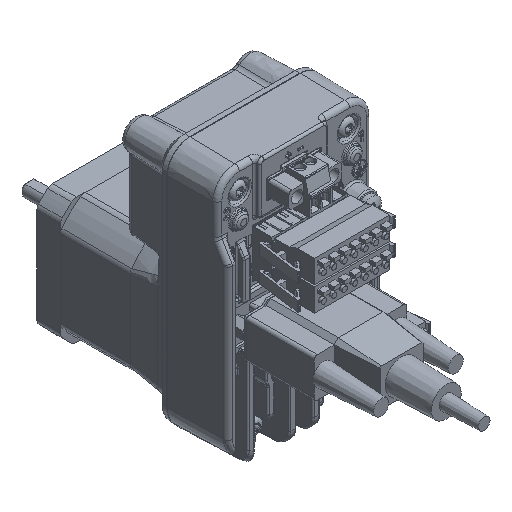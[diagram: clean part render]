
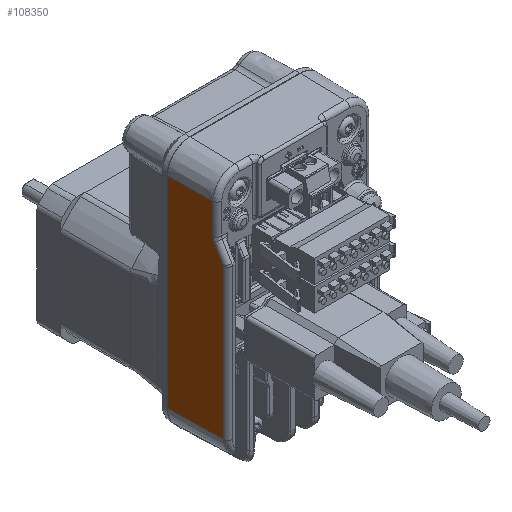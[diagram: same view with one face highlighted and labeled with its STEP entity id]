
A CAD part, isometric view. The second image highlights one B-rep face of the part: STEP entity #108350.
In plain terms, the highlighted planar face has unit normal (-1, -0.018, 0).
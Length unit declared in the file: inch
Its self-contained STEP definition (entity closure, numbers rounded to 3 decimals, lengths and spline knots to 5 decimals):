
#35306=CARTESIAN_POINT('',(-1.02898,0.64938,-0.5756));
#35307=VERTEX_POINT('',#35306);
#35317=CARTESIAN_POINT('',(-1.02901,0.64938,2.08422));
#35318=VERTEX_POINT('',#35317);
#35319=CARTESIAN_POINT('',(-1.02901,0.64938,0.07325));
#35320=DIRECTION('',(0.,0.,-1.));
#35321=VECTOR('',#35320,1.);
#35322=LINE('',#35319,#35321);
#35323=EDGE_CURVE('',#35318,#35307,#35322,.T.);
#35396=CARTESIAN_POINT('',(-1.01625,-0.08092,-0.57447));
#35397=VERTEX_POINT('',#35396);
#35405=CARTESIAN_POINT('',(-1.02898,0.64938,-0.5756));
#35406=CARTESIAN_POINT('',(-1.01624,-0.08092,-0.57544));
#35407=B_SPLINE_CURVE_WITH_KNOTS('',1,(#35405,#35406),.UNSPECIFIED.,.F.,.F.,(2,2),(-0.78938,-0.05896),.UNSPECIFIED.);
#35408=EDGE_CURVE('',#35307,#35397,#35407,.T.);
#73843=CARTESIAN_POINT('',(-1.01871,0.05895,2.08406));
#73844=VERTEX_POINT('',#73843);
#81299=CARTESIAN_POINT('',(-1.01871,0.05895,1.68293));
#81300=VERTEX_POINT('',#81299);
#81301=CARTESIAN_POINT('',(-1.01871,0.05895,0.55015));
#81302=DIRECTION('',(0.,0.,-1.));
#81303=VECTOR('',#81302,1.);
#81304=LINE('',#81301,#81303);
#81305=EDGE_CURVE('',#73844,#81300,#81304,.T.);
#83915=CARTESIAN_POINT('',(-1.01627,-0.08092,1.40851));
#83916=VERTEX_POINT('',#83915);
#83924=CARTESIAN_POINT('',(-1.01627,-0.08092,0.00885));
#83925=DIRECTION('',(0.,0.,-1.));
#83926=VECTOR('',#83925,1.);
#83927=LINE('',#83924,#83926);
#83928=EDGE_CURVE('',#83916,#35397,#83927,.T.);
#83945=CARTESIAN_POINT('',(-1.01843,0.04288,1.62293));
#83946=VERTEX_POINT('',#83945);
#83947=CARTESIAN_POINT('',(-1.01288,-0.27486,1.07261));
#83948=DIRECTION('',(0.009,-0.5,-0.866));
#83949=VECTOR('',#83948,1.);
#83950=LINE('',#83947,#83949);
#83951=EDGE_CURVE('',#83946,#83916,#83950,.T.);
#83985=CARTESIAN_POINT('',(-1.01661,-0.06105,1.68293));
#83986=DIRECTION('',(-1.,-0.017,0.));
#83987=DIRECTION('',(-0.017,1.,0.));
#83988=AXIS2_PLACEMENT_3D('',#83985,#83986,#83987);
#83989=ELLIPSE('',#83988,0.12002,0.12);
#83990=EDGE_CURVE('',#81300,#83946,#83989,.T.);
#108320=CARTESIAN_POINT('',(-1.01871,0.05895,2.08406));
#108321=CARTESIAN_POINT('',(-1.02901,0.64938,2.08422));
#108322=B_SPLINE_CURVE_WITH_KNOTS('',1,(#108320,#108321),.UNSPECIFIED.,.F.,.F.,(2,2),(0.14161,0.73089),.UNSPECIFIED.);
#108323=EDGE_CURVE('',#73844,#35318,#108322,.T.);
#108336=ORIENTED_EDGE('',*,*,#35323,.T.);
#108337=ORIENTED_EDGE('',*,*,#35408,.T.);
#108338=ORIENTED_EDGE('',*,*,#83928,.F.);
#108339=ORIENTED_EDGE('',*,*,#83951,.F.);
#108340=ORIENTED_EDGE('',*,*,#83990,.F.);
#108341=ORIENTED_EDGE('',*,*,#81305,.F.);
#108342=ORIENTED_EDGE('',*,*,#108323,.T.);
#108343=EDGE_LOOP('',(#108336,#108337,#108338,#108339,#108340,#108341,#108342));
#108344=FACE_OUTER_BOUND('',#108343,.T.);
#108345=CARTESIAN_POINT('',(-1.02913,0.65588,-0.03685));
#108346=DIRECTION('',(1.,0.017,0.));
#108347=DIRECTION('',(0.,0.,1.));
#108348=AXIS2_PLACEMENT_3D('',#108345,#108346,#108347);
#108349=PLANE('',#108348);
#108350=ADVANCED_FACE('',(#108344),#108349,.F.);
